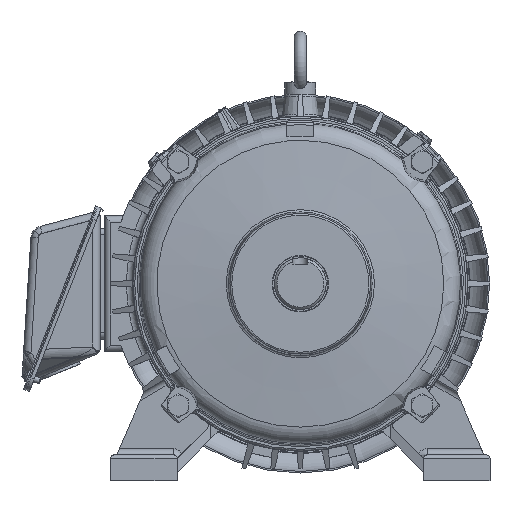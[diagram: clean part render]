
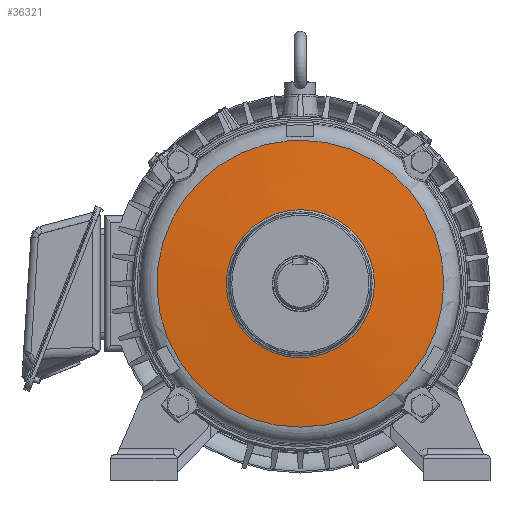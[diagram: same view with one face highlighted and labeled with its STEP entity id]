
A CAD part, front view. The second image highlights one B-rep face of the part: STEP entity #36321.
In plain terms, the highlighted conical face has half-angle 84.748 degrees and reference radius 58.5 mm.
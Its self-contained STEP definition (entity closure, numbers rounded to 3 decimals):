
#1452=CONICAL_SURFACE('',#38921,58.5,1.479);
#3485=CIRCLE('',#38917,116.474);
#3488=CIRCLE('',#38922,60.143);
#7652=ORIENTED_EDGE('',*,*,#16028,.T.);
#7653=ORIENTED_EDGE('',*,*,#16031,.T.);
#16028=EDGE_CURVE('',#20423,#20423,#3485,.T.);
#16031=EDGE_CURVE('',#20426,#20426,#3488,.T.);
#20423=VERTEX_POINT('',#62116);
#20426=VERTEX_POINT('',#62124);
#26607=EDGE_LOOP('',(#7652));
#26608=EDGE_LOOP('',(#7653));
#28978=FACE_BOUND('',#26607,.T.);
#28979=FACE_BOUND('',#26608,.T.);
#36321=ADVANCED_FACE('',(#28978,#28979),#1452,.T.);
#38917=AXIS2_PLACEMENT_3D('',#62115,#44282,#44283);
#38921=AXIS2_PLACEMENT_3D('',#62122,#44290,#44291);
#38922=AXIS2_PLACEMENT_3D('',#62123,#44292,#44293);
#44282=DIRECTION('',(0.,-1.,0.));
#44283=DIRECTION('',(0.,0.,-1.));
#44290=DIRECTION('',(0.,1.,0.));
#44291=DIRECTION('',(0.,0.,1.));
#44292=DIRECTION('',(0.,1.,0.));
#44293=DIRECTION('',(0.,0.,1.));
#62115=CARTESIAN_POINT('',(0.,20.329,0.));
#62116=CARTESIAN_POINT('',(0.,20.329,-116.474));
#62122=CARTESIAN_POINT('',(0.,15.,0.));
#62123=CARTESIAN_POINT('',(0.,15.151,0.));
#62124=CARTESIAN_POINT('',(0.,15.151,60.143));
